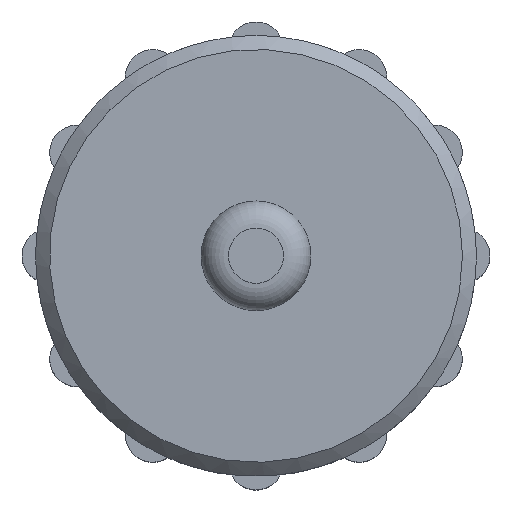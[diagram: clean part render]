
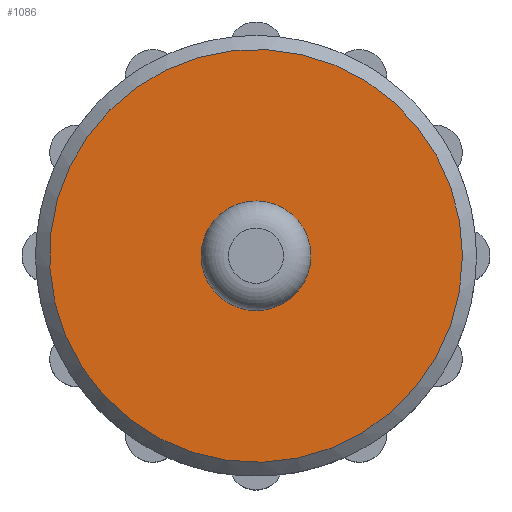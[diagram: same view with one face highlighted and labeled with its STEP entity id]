
A CAD part, top view. The second image highlights one B-rep face of the part: STEP entity #1086.
In plain terms, the highlighted planar face has unit normal (0, 0, 1).
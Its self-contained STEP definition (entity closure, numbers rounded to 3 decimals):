
#38 = EDGE_CURVE ( 'NONE', #1181, #1181, #1830, .T. ) ;
#107 = CARTESIAN_POINT ( 'NONE',  ( 0., 0., 7.5 ) ) ;
#185 = CIRCLE ( 'NONE', #2242, 1.3 ) ;
#311 = DIRECTION ( 'NONE',  ( 0., 0., 1. ) ) ;
#370 = AXIS2_PLACEMENT_3D ( 'NONE', #107, #663, #2065 ) ;
#462 = DIRECTION ( 'NONE',  ( 0., 0., -1. ) ) ;
#555 = AXIS2_PLACEMENT_3D ( 'NONE', #1194, #311, #1883 ) ;
#652 = VERTEX_POINT ( 'NONE', #1227 ) ;
#663 = DIRECTION ( 'NONE',  ( 0., 0., 1. ) ) ;
#667 = CARTESIAN_POINT ( 'NONE',  ( 7.5, 0., 7.5 ) ) ;
#675 = PLANE ( 'NONE',  #555 ) ;
#1086 = ADVANCED_FACE ( 'NONE', ( #2266, #2254 ), #675, .T. ) ;
#1181 = VERTEX_POINT ( 'NONE', #667 ) ;
#1194 = CARTESIAN_POINT ( 'NONE',  ( 0., 0., 7.5 ) ) ;
#1198 = DIRECTION ( 'NONE',  ( -1., 0., 0. ) ) ;
#1210 = CARTESIAN_POINT ( 'NONE',  ( 0., 0., 7.5 ) ) ;
#1227 = CARTESIAN_POINT ( 'NONE',  ( -1.3, 0., 7.5 ) ) ;
#1326 = EDGE_LOOP ( 'NONE', ( #1518 ) ) ;
#1518 = ORIENTED_EDGE ( 'NONE', *, *, #38, .T. ) ;
#1615 = ORIENTED_EDGE ( 'NONE', *, *, #2126, .T. ) ;
#1687 = EDGE_LOOP ( 'NONE', ( #1615 ) ) ;
#1830 = CIRCLE ( 'NONE', #370, 7.5 ) ;
#1883 = DIRECTION ( 'NONE',  ( 1., 0., 0. ) ) ;
#2065 = DIRECTION ( 'NONE',  ( 1., 0., 0. ) ) ;
#2126 = EDGE_CURVE ( 'NONE', #652, #652, #185, .T. ) ;
#2242 = AXIS2_PLACEMENT_3D ( 'NONE', #1210, #462, #1198 ) ;
#2254 = FACE_BOUND ( 'NONE', #1687, .T. ) ;
#2266 = FACE_OUTER_BOUND ( 'NONE', #1326, .T. ) ;
